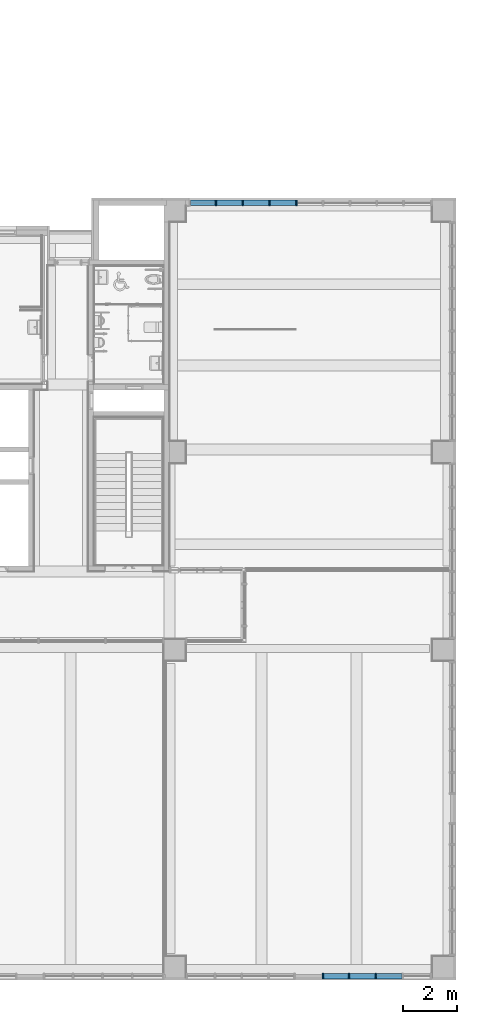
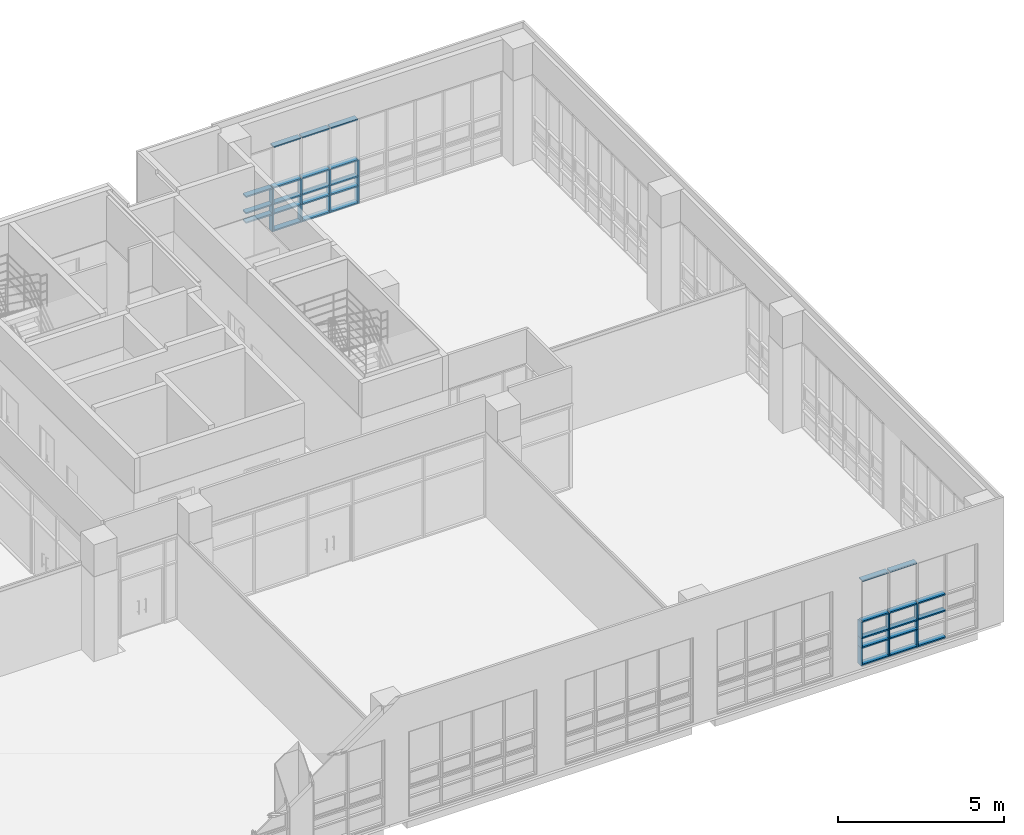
# One storey, part 22 of 74: 52 members, 2 elements without a shape of their own.
"""IFC2X3 building model written with IfcOpenShell, lengths in millimetres."""

from ifc_helpers import new_model, entity, si_unit, converted_unit, derived_unit, direction, frame, origin, origin_2d_with_axis, place, context, subcontext, project, spatial, rectangle, extrude, source, transform, mapped, material, type_object, type_shapes, element, aggregate, save


model = new_model("IFC2X3")

# Units and contexts
model_context = context("Model", 3, precision=0.01, world=origin(), true_north=direction((6.123031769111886e-17, 1.0)))
body_context = subcontext(model_context, "Body", "Model", "MODEL_VIEW")
ifc_project = project(units=[si_unit("LENGTHUNIT", "METRE", prefix="MILLI"), si_unit("AREAUNIT", "SQUARE_METRE"), si_unit("VOLUMEUNIT", "CUBIC_METRE"), converted_unit("PLANEANGLEUNIT", "DEGREE", entity("IfcRatioMeasure", 0.017453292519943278), si_unit("PLANEANGLEUNIT", "RADIAN"), dimensions=[0, 0, 0, 0, 0, 0, 0]), si_unit("MASSUNIT", "GRAM", prefix="KILO"), derived_unit("MASSDENSITYUNIT", [(si_unit("MASSUNIT", "GRAM", prefix="KILO"), 1), (si_unit("LENGTHUNIT", "METRE"), -3)]), derived_unit("MOMENTOFINERTIAUNIT", [(si_unit("LENGTHUNIT", "METRE"), 4)]), si_unit("TIMEUNIT", "SECOND"), si_unit("FREQUENCYUNIT", "HERTZ"), si_unit("THERMODYNAMICTEMPERATUREUNIT", "DEGREE_CELSIUS"), derived_unit("THERMALTRANSMITTANCEUNIT", [(si_unit("MASSUNIT", "GRAM", prefix="KILO"), 1), (si_unit("THERMODYNAMICTEMPERATUREUNIT", "KELVIN"), -1), (si_unit("TIMEUNIT", "SECOND"), -3)]), derived_unit("VOLUMETRICFLOWRATEUNIT", [(si_unit("LENGTHUNIT", "METRE"), 3), (si_unit("TIMEUNIT", "SECOND"), -1)]), derived_unit("MASSFLOWRATEUNIT", [(si_unit("MASSUNIT", "GRAM", prefix="KILO"), 1), (si_unit("TIMEUNIT", "SECOND"), -1)]), derived_unit("ROTATIONALFREQUENCYUNIT", [(si_unit("TIMEUNIT", "SECOND"), -1)]), si_unit("ELECTRICCURRENTUNIT", "AMPERE"), si_unit("ELECTRICVOLTAGEUNIT", "VOLT"), si_unit("POWERUNIT", "WATT"), si_unit("FORCEUNIT", "NEWTON", prefix="KILO"), si_unit("ILLUMINANCEUNIT", "LUX"), si_unit("LUMINOUSFLUXUNIT", "LUMEN"), si_unit("LUMINOUSINTENSITYUNIT", "CANDELA"), derived_unit("USERDEFINED", [(si_unit("MASSUNIT", "GRAM", prefix="KILO"), -1), (si_unit("LENGTHUNIT", "METRE"), -2), (si_unit("TIMEUNIT", "SECOND"), 3), (si_unit("LUMINOUSFLUXUNIT", "LUMEN"), 1)]), derived_unit("SOUNDPOWERUNIT", [(si_unit("MASSUNIT", "GRAM", prefix="KILO"), 1), (si_unit("LENGTHUNIT", "METRE"), 2), (si_unit("TIMEUNIT", "SECOND"), -3)]), derived_unit("SOUNDPRESSUREUNIT", [(si_unit("MASSUNIT", "GRAM", prefix="KILO"), 1), (si_unit("LENGTHUNIT", "METRE"), -1), (si_unit("TIMEUNIT", "SECOND"), -2)]), derived_unit("LINEARVELOCITYUNIT", [(si_unit("LENGTHUNIT", "METRE"), 1), (si_unit("TIMEUNIT", "SECOND"), -1)]), si_unit("PRESSUREUNIT", "PASCAL"), derived_unit("USERDEFINED", [(si_unit("LENGTHUNIT", "METRE"), -2), (si_unit("MASSUNIT", "GRAM", prefix="KILO"), 1), (si_unit("TIMEUNIT", "SECOND"), -2)]), derived_unit("LINEARFORCEUNIT", [(si_unit("MASSUNIT", "GRAM", prefix="KILO"), 1), (si_unit("LENGTHUNIT", "METRE"), 1), (si_unit("TIMEUNIT", "SECOND"), -2), (si_unit("LENGTHUNIT", "METRE"), -1)]), derived_unit("PLANARFORCEUNIT", [(si_unit("MASSUNIT", "GRAM", prefix="KILO"), 1), (si_unit("LENGTHUNIT", "METRE"), 1), (si_unit("TIMEUNIT", "SECOND"), -2), (si_unit("LENGTHUNIT", "METRE"), -2)])], contexts=[model_context])

# Site, building, storey
site_placement = place(None, frame((-14167.972527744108, -657.2125860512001, 0.0)))
site = spatial("IfcSite", under=ifc_project, at=site_placement, Name="Default", CompositionType="ELEMENT")
building_placement = place(site_placement, origin())
building = spatial("IfcBuilding", under=site, at=building_placement, Name="Sample Building", CompositionType="ELEMENT")
storey_placement = place(building_placement, frame((0.0, 0.0, 4800.0)))
storey = spatial("IfcBuildingStorey", under=building, at=storey_placement, Name="지상 2층", CompositionType="ELEMENT", Elevation=4800.000000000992)

# Curtain wall, members
curtain_wall_type = type_object("IfcCurtainWallType", Name="커튼월:CW112-스테인리스 스틸 커튼월", PredefinedType="NOTDEFINED")
curtain_wall_1_placement = place(storey_placement, frame((0.0, 0.0, -4800.0)))
curtain_wall_1 = element("IfcCurtainWall", 1, at=curtain_wall_1_placement, inside=storey, type_object=curtain_wall_type, Name="커튼월:CW112-스테인리스 스틸 커튼월", ObjectType="커튼월:CW112-스테인리스 스틸 커튼월")
ifc_material = material(Name="<Unnamed>")
member_type_1 = type_object("IfcMemberType", Name="직사각형 멀리언:CW200-직사각형 멀리언 50x200mm", PredefinedType="MULLION", material=ifc_material)
shared_shape_1 = source(origin(), body_context, "Body", "SweptSolid", [
    extrude(rectangle(XDim=200.0, YDim=50.0, at=origin_2d_with_axis()), frame((0.0, 0.0, -650.0), z_axis=(0.0, 0.0, 1.0), x_axis=(0.0, -1.0, 0.0)), (0.0, 0.0, 1.0), 650.0000000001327),
])
type_shapes(member_type_1, [shared_shape_1])
member_1_placement = place(curtain_wall_1_placement, frame((47598.32230636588, 619.7122951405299, 4880.0), z_axis=(0.0, 0.0, -1.0), x_axis=(1.0, 0.0, 0.0)))
member_1 = element("IfcMember", 2, at=member_1_placement, type_object=member_type_1, material=ifc_material, Name="직사각형 멀리언:CW200-직사각형 멀리언 50x200mm", ObjectType="직사각형 멀리언:CW200-직사각형 멀리언 50x200mm", context=body_context, shape_type="MappedRepresentation", body=[
    mapped(shared_shape_1, transform((0.0, 0.0, 0.0), scale=1.0)),
])
member_2_placement = place(curtain_wall_1_placement, frame((48585.82230636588, 619.7122951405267, 4880.0), z_axis=(0.0, 0.0, -1.0), x_axis=(1.0, 0.0, 0.0)))
member_2 = element("IfcMember", 3, at=member_2_placement, type_object=member_type_1, material=ifc_material, Name="직사각형 멀리언:CW200-직사각형 멀리언 50x200mm", ObjectType="직사각형 멀리언:CW200-직사각형 멀리언 50x200mm", context=body_context, shape_type="MappedRepresentation", body=[
    mapped(shared_shape_1, transform((0.0, 0.0, 0.0), scale=1.0)),
])

curtain_wall_2_placement = place(storey_placement, frame((0.0, 0.0, -4800.0)))
curtain_wall_2 = element("IfcCurtainWall", 4, at=curtain_wall_2_placement, inside=storey, type_object=curtain_wall_type, Name="커튼월:CW112-스테인리스 스틸 커튼월", ObjectType="커튼월:CW112-스테인리스 스틸 커튼월")
member_3_placement = place(curtain_wall_2_placement, frame((45653.10221408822, 29157.212295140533, 4880.0), z_axis=(0.0, 0.0, -1.0), x_axis=(-1.0, 0.0, 0.0)))
member_3 = element("IfcMember", 5, at=member_3_placement, type_object=member_type_1, material=ifc_material, Name="직사각형 멀리언:CW200-직사각형 멀리언 50x200mm", ObjectType="직사각형 멀리언:CW200-직사각형 멀리언 50x200mm", context=body_context, shape_type="MappedRepresentation", body=[
    mapped(shared_shape_1, transform((0.0, 0.0, 0.0), scale=1.0)),
])
member_4_placement = place(curtain_wall_2_placement, frame((44664.21332519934, 29157.212295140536, 4880.0), z_axis=(0.0, 0.0, -1.0), x_axis=(-1.0, 0.0, 0.0)))
member_4 = element("IfcMember", 6, at=member_4_placement, type_object=member_type_1, material=ifc_material, Name="직사각형 멀리언:CW200-직사각형 멀리언 50x200mm", ObjectType="직사각형 멀리언:CW200-직사각형 멀리언 50x200mm", context=body_context, shape_type="MappedRepresentation", body=[
    mapped(shared_shape_1, transform((0.0, 0.0, 0.0), scale=1.0)),
])
member_5_placement = place(curtain_wall_2_placement, frame((43675.32443631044, 29157.21229514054, 4880.0), z_axis=(0.0, 0.0, -1.0), x_axis=(-1.0, 0.0, 0.0)))
member_5 = element("IfcMember", 7, at=member_5_placement, type_object=member_type_1, material=ifc_material, Name="직사각형 멀리언:CW200-직사각형 멀리언 50x200mm", ObjectType="직사각형 멀리언:CW200-직사각형 멀리언 50x200mm", context=body_context, shape_type="MappedRepresentation", body=[
    mapped(shared_shape_1, transform((0.0, 0.0, 0.0), scale=1.0)),
])
member_6_placement = place(curtain_wall_2_placement, frame((42686.43554742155, 29157.21229514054, 4880.0), z_axis=(0.0, 0.0, -1.0), x_axis=(-1.0, 0.0, 0.0)))
member_6 = element("IfcMember", 8, at=member_6_placement, type_object=member_type_1, material=ifc_material, Name="직사각형 멀리언:CW200-직사각형 멀리언 50x200mm", ObjectType="직사각형 멀리언:CW200-직사각형 멀리언 50x200mm", context=body_context, shape_type="MappedRepresentation", body=[
    mapped(shared_shape_1, transform((0.0, 0.0, 0.0), scale=1.0)),
])

# Member
member_type_2 = type_object("IfcMemberType", Name="직사각형 멀리언:CW200-직사각형 멀리언 50x200mm", PredefinedType="MULLION", material=ifc_material)
shared_shape_2 = source(origin(), body_context, "Body", "SweptSolid", [
    extrude(rectangle(XDim=200.0, YDim=50.0, at=origin_2d_with_axis()), frame((-25.0, 0.0, -600.0), z_axis=(0.0, 0.0, 1.0), x_axis=(0.0, -1.0, 0.0)), (0.0, 0.0, 1.0), 600.0),
])
type_shapes(member_type_2, [shared_shape_2])
member_7_placement = place(curtain_wall_1_placement, frame((46610.82230636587, 619.7122951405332, 6480.0), z_axis=(0.0, 0.0, 1.0), x_axis=(-1.0, 0.0, 0.0)))
member_7 = element("IfcMember", 9, at=member_7_placement, type_object=member_type_2, material=ifc_material, Name="직사각형 멀리언:CW200-직사각형 멀리언 50x200mm", ObjectType="직사각형 멀리언:CW200-직사각형 멀리언 50x200mm", context=body_context, shape_type="MappedRepresentation", body=[
    mapped(shared_shape_2, transform((0.0, 0.0, 0.0), scale=1.0)),
])

member_type_3 = type_object("IfcMemberType", Name="직사각형 멀리언:CW200-직사각형 멀리언 50x200mm", PredefinedType="MULLION", material=ifc_material)
shared_shape_3 = source(origin(), body_context, "Body", "SweptSolid", [
    extrude(rectangle(XDim=200.0, YDim=50.0, at=origin_2d_with_axis()), frame((-25.0, 0.0, -350.0), z_axis=(0.0, 0.0, 1.0), x_axis=(0.0, -1.0, 0.0)), (0.0, 0.0, 1.0), 349.9999999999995),
])
type_shapes(member_type_3, [shared_shape_3])
member_8_placement = place(curtain_wall_1_placement, frame((46610.82230636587, 619.7122951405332, 5880.0), z_axis=(0.0, 0.0, 1.0), x_axis=(-1.0, 0.0, 0.0)))
member_8 = element("IfcMember", 10, at=member_8_placement, type_object=member_type_3, material=ifc_material, Name="직사각형 멀리언:CW200-직사각형 멀리언 50x200mm", ObjectType="직사각형 멀리언:CW200-직사각형 멀리언 50x200mm", context=body_context, shape_type="MappedRepresentation", body=[
    mapped(shared_shape_3, transform((0.0, 0.0, 0.0), scale=1.0)),
])

member_type_4 = type_object("IfcMemberType", Name="직사각형 멀리언:CW200-직사각형 멀리언 50x200mm", PredefinedType="MULLION", material=ifc_material)
shared_shape_4 = source(origin(), body_context, "Body", "SweptSolid", [
    extrude(rectangle(XDim=200.0, YDim=50.0, at=origin_2d_with_axis()), frame((0.0, 0.0, -600.0), z_axis=(0.0, 0.0, 1.0), x_axis=(0.0, -1.0, 0.0)), (0.0, 0.0, 1.0), 600.0),
])
type_shapes(member_type_4, [shared_shape_4])
member_9_placement = place(curtain_wall_1_placement, frame((47598.32230636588, 619.7122951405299, 5880.0), z_axis=(0.0, 0.0, -1.0), x_axis=(1.0, 0.0, 0.0)))
member_9 = element("IfcMember", 11, at=member_9_placement, type_object=member_type_4, material=ifc_material, Name="직사각형 멀리언:CW200-직사각형 멀리언 50x200mm", ObjectType="직사각형 멀리언:CW200-직사각형 멀리언 50x200mm", context=body_context, shape_type="MappedRepresentation", body=[
    mapped(shared_shape_4, transform((0.0, 0.0, 0.0), scale=1.0)),
])

member_10_placement = place(curtain_wall_1_placement, frame((48585.82230636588, 619.7122951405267, 5880.0), z_axis=(0.0, 0.0, -1.0), x_axis=(1.0, 0.0, 0.0)))
member_10 = element("IfcMember", 12, at=member_10_placement, type_object=member_type_4, material=ifc_material, Name="직사각형 멀리언:CW200-직사각형 멀리언 50x200mm", ObjectType="직사각형 멀리언:CW200-직사각형 멀리언 50x200mm", context=body_context, shape_type="MappedRepresentation", body=[
    mapped(shared_shape_4, transform((0.0, 0.0, 0.0), scale=1.0)),
])

member_11_placement = place(curtain_wall_2_placement, frame((45653.10221408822, 29157.212295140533, 5880.0), z_axis=(0.0, 0.0, -1.0), x_axis=(-1.0, 0.0, 0.0)))
member_11 = element("IfcMember", 13, at=member_11_placement, type_object=member_type_4, material=ifc_material, Name="직사각형 멀리언:CW200-직사각형 멀리언 50x200mm", ObjectType="직사각형 멀리언:CW200-직사각형 멀리언 50x200mm", context=body_context, shape_type="MappedRepresentation", body=[
    mapped(shared_shape_4, transform((0.0, 0.0, 0.0), scale=1.0)),
])

member_12_placement = place(curtain_wall_2_placement, frame((44664.21332519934, 29157.212295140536, 5880.0), z_axis=(0.0, 0.0, -1.0), x_axis=(-1.0, 0.0, 0.0)))
member_12 = element("IfcMember", 14, at=member_12_placement, type_object=member_type_4, material=ifc_material, Name="직사각형 멀리언:CW200-직사각형 멀리언 50x200mm", ObjectType="직사각형 멀리언:CW200-직사각형 멀리언 50x200mm", context=body_context, shape_type="MappedRepresentation", body=[
    mapped(shared_shape_4, transform((0.0, 0.0, 0.0), scale=1.0)),
])

member_13_placement = place(curtain_wall_2_placement, frame((43675.32443631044, 29157.21229514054, 5880.0), z_axis=(0.0, 0.0, -1.0), x_axis=(-1.0, 0.0, 0.0)))
member_13 = element("IfcMember", 15, at=member_13_placement, type_object=member_type_4, material=ifc_material, Name="직사각형 멀리언:CW200-직사각형 멀리언 50x200mm", ObjectType="직사각형 멀리언:CW200-직사각형 멀리언 50x200mm", context=body_context, shape_type="MappedRepresentation", body=[
    mapped(shared_shape_4, transform((0.0, 0.0, 0.0), scale=1.0)),
])

member_14_placement = place(curtain_wall_2_placement, frame((42686.43554742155, 29157.21229514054, 5880.0), z_axis=(0.0, 0.0, -1.0), x_axis=(-1.0, 0.0, 0.0)))
member_14 = element("IfcMember", 16, at=member_14_placement, type_object=member_type_4, material=ifc_material, Name="직사각형 멀리언:CW200-직사각형 멀리언 50x200mm", ObjectType="직사각형 멀리언:CW200-직사각형 멀리언 50x200mm", context=body_context, shape_type="MappedRepresentation", body=[
    mapped(shared_shape_4, transform((0.0, 0.0, 0.0), scale=1.0)),
])

member_type_5 = type_object("IfcMemberType", Name="직사각형 멀리언:CW200-직사각형 멀리언 50x200mm", PredefinedType="MULLION", material=ifc_material)
shared_shape_5 = source(origin(), body_context, "Body", "SweptSolid", [
    extrude(rectangle(XDim=200.0, YDim=50.0, at=origin_2d_with_axis()), frame((-25.0, 0.0, -650.0), z_axis=(0.0, 0.0, 1.0), x_axis=(0.0, -1.0, 0.0)), (0.0, 0.0, 1.0), 650.0000000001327),
])
type_shapes(member_type_5, [shared_shape_5])
member_15_placement = place(curtain_wall_1_placement, frame((46610.82230636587, 619.7122951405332, 5530.0), z_axis=(0.0, 0.0, 1.0), x_axis=(-1.0, 0.0, 0.0)))
member_15 = element("IfcMember", 17, at=member_15_placement, type_object=member_type_5, material=ifc_material, Name="직사각형 멀리언:CW200-직사각형 멀리언 50x200mm", ObjectType="직사각형 멀리언:CW200-직사각형 멀리언 50x200mm", context=body_context, shape_type="MappedRepresentation", body=[
    mapped(shared_shape_5, transform((0.0, 0.0, 0.0), scale=1.0)),
])

member_type_6 = type_object("IfcMemberType", Name="직사각형 멀리언:CW200-직사각형 멀리언 50x200mm", PredefinedType="MULLION", material=ifc_material)
shared_shape_6 = source(origin(), body_context, "Body", "SweptSolid", [
    extrude(rectangle(XDim=200.0, YDim=50.0, at=origin_2d_with_axis()), frame((0.0, 0.0, -350.0), z_axis=(0.0, 0.0, 1.0), x_axis=(0.0, -1.0, 0.0)), (0.0, 0.0, 1.0), 349.9999999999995),
])
type_shapes(member_type_6, [shared_shape_6])
member_16_placement = place(curtain_wall_1_placement, frame((47598.32230636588, 619.7122951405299, 5530.0), z_axis=(0.0, 0.0, -1.0), x_axis=(1.0, 0.0, 0.0)))
member_16 = element("IfcMember", 18, at=member_16_placement, type_object=member_type_6, material=ifc_material, Name="직사각형 멀리언:CW200-직사각형 멀리언 50x200mm", ObjectType="직사각형 멀리언:CW200-직사각형 멀리언 50x200mm", context=body_context, shape_type="MappedRepresentation", body=[
    mapped(shared_shape_6, transform((0.0, 0.0, 0.0), scale=1.0)),
])

member_17_placement = place(curtain_wall_1_placement, frame((48585.82230636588, 619.7122951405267, 5530.0), z_axis=(0.0, 0.0, -1.0), x_axis=(1.0, 0.0, 0.0)))
member_17 = element("IfcMember", 19, at=member_17_placement, type_object=member_type_6, material=ifc_material, Name="직사각형 멀리언:CW200-직사각형 멀리언 50x200mm", ObjectType="직사각형 멀리언:CW200-직사각형 멀리언 50x200mm", context=body_context, shape_type="MappedRepresentation", body=[
    mapped(shared_shape_6, transform((0.0, 0.0, 0.0), scale=1.0)),
])

member_18_placement = place(curtain_wall_2_placement, frame((45653.10221408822, 29157.212295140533, 5530.0), z_axis=(0.0, 0.0, -1.0), x_axis=(-1.0, 0.0, 0.0)))
member_18 = element("IfcMember", 20, at=member_18_placement, type_object=member_type_6, material=ifc_material, Name="직사각형 멀리언:CW200-직사각형 멀리언 50x200mm", ObjectType="직사각형 멀리언:CW200-직사각형 멀리언 50x200mm", context=body_context, shape_type="MappedRepresentation", body=[
    mapped(shared_shape_6, transform((0.0, 0.0, 0.0), scale=1.0)),
])

member_19_placement = place(curtain_wall_2_placement, frame((44664.21332519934, 29157.212295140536, 5530.0), z_axis=(0.0, 0.0, -1.0), x_axis=(-1.0, 0.0, 0.0)))
member_19 = element("IfcMember", 21, at=member_19_placement, type_object=member_type_6, material=ifc_material, Name="직사각형 멀리언:CW200-직사각형 멀리언 50x200mm", ObjectType="직사각형 멀리언:CW200-직사각형 멀리언 50x200mm", context=body_context, shape_type="MappedRepresentation", body=[
    mapped(shared_shape_6, transform((0.0, 0.0, 0.0), scale=1.0)),
])

member_20_placement = place(curtain_wall_2_placement, frame((43675.32443631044, 29157.21229514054, 5530.0), z_axis=(0.0, 0.0, -1.0), x_axis=(-1.0, 0.0, 0.0)))
member_20 = element("IfcMember", 22, at=member_20_placement, type_object=member_type_6, material=ifc_material, Name="직사각형 멀리언:CW200-직사각형 멀리언 50x200mm", ObjectType="직사각형 멀리언:CW200-직사각형 멀리언 50x200mm", context=body_context, shape_type="MappedRepresentation", body=[
    mapped(shared_shape_6, transform((0.0, 0.0, 0.0), scale=1.0)),
])

member_21_placement = place(curtain_wall_2_placement, frame((42686.43554742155, 29157.21229514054, 5530.0), z_axis=(0.0, 0.0, -1.0), x_axis=(-1.0, 0.0, 0.0)))
member_21 = element("IfcMember", 23, at=member_21_placement, type_object=member_type_6, material=ifc_material, Name="직사각형 멀리언:CW200-직사각형 멀리언 50x200mm", ObjectType="직사각형 멀리언:CW200-직사각형 멀리언 50x200mm", context=body_context, shape_type="MappedRepresentation", body=[
    mapped(shared_shape_6, transform((0.0, 0.0, 0.0), scale=1.0)),
])

member_type_7 = type_object("IfcMemberType", Name="직사각형 멀리언:CW200-직사각형 멀리언 50x200mm", PredefinedType="MULLION", material=ifc_material)
shared_shape_7 = source(origin(), body_context, "Body", "SweptSolid", [
    extrude(rectangle(XDim=200.0, YDim=50.0, at=origin_2d_with_axis()), frame((-25.0, 0.0, -912.5000000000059), z_axis=(0.0, 0.0, 1.0), x_axis=(0.0, -1.0, 0.0)), (0.0, 0.0, 1.0), 912.5000000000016),
])
type_shapes(member_type_7, [shared_shape_7])
member_22_placement = place(curtain_wall_1_placement, frame((47573.32230636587, 619.71229514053, 8000.0), z_axis=(1.0, 0.0, 0.0), x_axis=(0.0, 0.0, 1.0)))
member_22 = element("IfcMember", 24, at=member_22_placement, type_object=member_type_7, material=ifc_material, Name="직사각형 멀리언:CW200-직사각형 멀리언 50x200mm", ObjectType="직사각형 멀리언:CW200-직사각형 멀리언 50x200mm", context=body_context, shape_type="MappedRepresentation", body=[
    mapped(shared_shape_7, transform((0.0, 0.0, 0.0), scale=1.0)),
])

member_type_8 = type_object("IfcMemberType", Name="직사각형 멀리언:CW200-직사각형 멀리언 50x200mm", PredefinedType="MULLION", material=ifc_material)
shared_shape_8 = source(origin(), body_context, "Body", "SweptSolid", [
    extrude(rectangle(XDim=200.0, YDim=50.0, at=origin_2d_with_axis()), frame((-25.0, 0.0, -937.4999999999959), z_axis=(0.0, 0.0, 1.0), x_axis=(0.0, -1.0, 0.0)), (0.0, 0.0, 1.0), 937.5000000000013),
])
type_shapes(member_type_8, [shared_shape_8])
member_23_placement = place(curtain_wall_1_placement, frame((47623.32230636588, 619.7122951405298, 4880.0), z_axis=(-1.0, 0.0, 0.0), x_axis=(0.0, 0.0, -1.0)))
member_23 = element("IfcMember", 25, at=member_23_placement, type_object=member_type_8, material=ifc_material, Name="직사각형 멀리언:CW200-직사각형 멀리언 50x200mm", ObjectType="직사각형 멀리언:CW200-직사각형 멀리언 50x200mm", context=body_context, shape_type="MappedRepresentation", body=[
    mapped(shared_shape_8, transform((0.0, 0.0, 0.0), scale=1.0)),
])

member_24_placement = place(curtain_wall_1_placement, frame((48610.82230636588, 619.7122951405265, 4880.0), z_axis=(-1.0, 0.0, 0.0), x_axis=(0.0, 0.0, -1.0)))
member_24 = element("IfcMember", 26, at=member_24_placement, type_object=member_type_8, material=ifc_material, Name="직사각형 멀리언:CW200-직사각형 멀리언 50x200mm", ObjectType="직사각형 멀리언:CW200-직사각형 멀리언 50x200mm", context=body_context, shape_type="MappedRepresentation", body=[
    mapped(shared_shape_8, transform((0.0, 0.0, 0.0), scale=1.0)),
])

member_type_9 = type_object("IfcMemberType", Name="직사각형 멀리언:CW200-직사각형 멀리언 50x200mm", PredefinedType="MULLION", material=ifc_material)
shared_shape_9 = source(origin(), body_context, "Body", "SweptSolid", [
    extrude(rectangle(XDim=200.0, YDim=50.0, at=origin_2d_with_axis()), frame((0.0, 0.0, -937.5000000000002), z_axis=(0.0, 0.0, 1.0), x_axis=(0.0, -1.0, 0.0)), (0.0, 0.0, 1.0), 937.5000000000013),
])
type_shapes(member_type_9, [shared_shape_9])
member_25_placement = place(curtain_wall_1_placement, frame((48560.82230636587, 619.7122951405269, 6480.0), z_axis=(1.0, 0.0, 0.0), x_axis=(0.0, 0.0, 1.0)))
member_25 = element("IfcMember", 27, at=member_25_placement, type_object=member_type_9, material=ifc_material, Name="직사각형 멀리언:CW200-직사각형 멀리언 50x200mm", ObjectType="직사각형 멀리언:CW200-직사각형 멀리언 50x200mm", context=body_context, shape_type="MappedRepresentation", body=[
    mapped(shared_shape_9, transform((0.0, 0.0, 0.0), scale=1.0)),
])

member_26_placement = place(curtain_wall_1_placement, frame((48560.82230636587, 619.7122951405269, 5880.0), z_axis=(1.0, 0.0, 0.0), x_axis=(0.0, 0.0, 1.0)))
member_26 = element("IfcMember", 28, at=member_26_placement, type_object=member_type_9, material=ifc_material, Name="직사각형 멀리언:CW200-직사각형 멀리언 50x200mm", ObjectType="직사각형 멀리언:CW200-직사각형 멀리언 50x200mm", context=body_context, shape_type="MappedRepresentation", body=[
    mapped(shared_shape_9, transform((0.0, 0.0, 0.0), scale=1.0)),
])

member_27_placement = place(curtain_wall_1_placement, frame((49548.32230636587, 619.7122951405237, 5880.0), z_axis=(1.0, 0.0, 0.0), x_axis=(0.0, 0.0, 1.0)))
member_27 = element("IfcMember", 29, at=member_27_placement, type_object=member_type_9, material=ifc_material, Name="직사각형 멀리언:CW200-직사각형 멀리언 50x200mm", ObjectType="직사각형 멀리언:CW200-직사각형 멀리언 50x200mm", context=body_context, shape_type="MappedRepresentation", body=[
    mapped(shared_shape_9, transform((0.0, 0.0, 0.0), scale=1.0)),
])

member_28_placement = place(curtain_wall_1_placement, frame((49548.32230636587, 619.7122951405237, 6480.0), z_axis=(1.0, 0.0, 0.0), x_axis=(0.0, 0.0, 1.0)))
member_28 = element("IfcMember", 30, at=member_28_placement, type_object=member_type_9, material=ifc_material, Name="직사각형 멀리언:CW200-직사각형 멀리언 50x200mm", ObjectType="직사각형 멀리언:CW200-직사각형 멀리언 50x200mm", context=body_context, shape_type="MappedRepresentation", body=[
    mapped(shared_shape_9, transform((0.0, 0.0, 0.0), scale=1.0)),
])

member_29_placement = place(curtain_wall_1_placement, frame((48560.82230636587, 619.7122951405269, 5530.0), z_axis=(1.0, 0.0, 0.0), x_axis=(0.0, 0.0, 1.0)))
member_29 = element("IfcMember", 31, at=member_29_placement, type_object=member_type_9, material=ifc_material, Name="직사각형 멀리언:CW200-직사각형 멀리언 50x200mm", ObjectType="직사각형 멀리언:CW200-직사각형 멀리언 50x200mm", context=body_context, shape_type="MappedRepresentation", body=[
    mapped(shared_shape_9, transform((0.0, 0.0, 0.0), scale=1.0)),
])

member_type_10 = type_object("IfcMemberType", Name="직사각형 멀리언:CW200-직사각형 멀리언 50x200mm", PredefinedType="MULLION", material=ifc_material)
shared_shape_10 = source(origin(), body_context, "Body", "SweptSolid", [
    extrude(rectangle(XDim=200.0, YDim=50.0, at=origin_2d_with_axis()), frame((-25.0, 0.0, -937.4999999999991), z_axis=(0.0, 0.0, 1.0), x_axis=(0.0, -1.0, 0.0)), (0.0, 0.0, 1.0), 937.5000000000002),
])
type_shapes(member_type_10, [shared_shape_10])
member_30_placement = place(curtain_wall_1_placement, frame((48560.82230636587, 619.7122951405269, 8000.0), z_axis=(1.0, 0.0, 0.0), x_axis=(0.0, 0.0, 1.0)))
member_30 = element("IfcMember", 32, at=member_30_placement, type_object=member_type_10, material=ifc_material, Name="직사각형 멀리언:CW200-직사각형 멀리언 50x200mm", ObjectType="직사각형 멀리언:CW200-직사각형 멀리언 50x200mm", context=body_context, shape_type="MappedRepresentation", body=[
    mapped(shared_shape_10, transform((0.0, 0.0, 0.0), scale=1.0)),
])

member_type_11 = type_object("IfcMemberType", Name="직사각형 멀리언:CW200-직사각형 멀리언 50x200mm", PredefinedType="MULLION", material=ifc_material)
shared_shape_11 = source(origin(), body_context, "Body", "SweptSolid", [
    extrude(rectangle(XDim=200.0, YDim=50.0, at=origin_2d_with_axis()), frame((-25.0, 0.0, -912.5000000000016), z_axis=(0.0, 0.0, 1.0), x_axis=(0.0, -1.0, 0.0)), (0.0, 0.0, 1.0), 912.5000000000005),
])
type_shapes(member_type_11, [shared_shape_11])
member_31_placement = place(curtain_wall_1_placement, frame((46660.82230636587, 619.712295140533, 4880.0), z_axis=(-1.0, 0.0, 0.0), x_axis=(0.0, 0.0, -1.0)))
member_31 = element("IfcMember", 33, at=member_31_placement, type_object=member_type_11, material=ifc_material, Name="직사각형 멀리언:CW200-직사각형 멀리언 50x200mm", ObjectType="직사각형 멀리언:CW200-직사각형 멀리언 50x200mm", context=body_context, shape_type="MappedRepresentation", body=[
    mapped(shared_shape_11, transform((0.0, 0.0, 0.0), scale=1.0)),
])

member_type_12 = type_object("IfcMemberType", Name="직사각형 멀리언:CW200-직사각형 멀리언 50x200mm", PredefinedType="MULLION", material=ifc_material)
shared_shape_12 = source(origin(), body_context, "Body", "SweptSolid", [
    extrude(rectangle(XDim=200.0, YDim=50.0, at=origin_2d_with_axis()), frame((0.0, 0.0, -912.4999999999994), z_axis=(0.0, 0.0, 1.0), x_axis=(0.0, -1.0, 0.0)), (0.0, 0.0, 1.0), 912.5000000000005),
])
type_shapes(member_type_12, [shared_shape_12])
member_32_placement = place(curtain_wall_1_placement, frame((47573.32230636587, 619.71229514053, 6480.0), z_axis=(1.0, 0.0, 0.0), x_axis=(0.0, 0.0, 1.0)))
member_32 = element("IfcMember", 34, at=member_32_placement, type_object=member_type_12, material=ifc_material, Name="직사각형 멀리언:CW200-직사각형 멀리언 50x200mm", ObjectType="직사각형 멀리언:CW200-직사각형 멀리언 50x200mm", context=body_context, shape_type="MappedRepresentation", body=[
    mapped(shared_shape_12, transform((0.0, 0.0, 0.0), scale=1.0)),
])

member_33_placement = place(curtain_wall_1_placement, frame((47573.32230636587, 619.71229514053, 5880.0), z_axis=(1.0, 0.0, 0.0), x_axis=(0.0, 0.0, 1.0)))
member_33 = element("IfcMember", 35, at=member_33_placement, type_object=member_type_12, material=ifc_material, Name="직사각형 멀리언:CW200-직사각형 멀리언 50x200mm", ObjectType="직사각형 멀리언:CW200-직사각형 멀리언 50x200mm", context=body_context, shape_type="MappedRepresentation", body=[
    mapped(shared_shape_12, transform((0.0, 0.0, 0.0), scale=1.0)),
])

member_34_placement = place(curtain_wall_1_placement, frame((47573.32230636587, 619.71229514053, 5530.0), z_axis=(1.0, 0.0, 0.0), x_axis=(0.0, 0.0, 1.0)))
member_34 = element("IfcMember", 36, at=member_34_placement, type_object=member_type_12, material=ifc_material, Name="직사각형 멀리언:CW200-직사각형 멀리언 50x200mm", ObjectType="직사각형 멀리언:CW200-직사각형 멀리언 50x200mm", context=body_context, shape_type="MappedRepresentation", body=[
    mapped(shared_shape_12, transform((0.0, 0.0, 0.0), scale=1.0)),
])

aggregate(curtain_wall_1, [member_31, member_7, member_32, member_22, member_23, member_25, member_1, member_8, member_33, member_26, member_9, member_30, member_24, member_27, member_28, member_2, member_10, member_15, member_34, member_29, member_16, member_17])

member_type_13 = type_object("IfcMemberType", Name="직사각형 멀리언:CW200-직사각형 멀리언 50x200mm", PredefinedType="MULLION", material=ifc_material)
shared_shape_13 = source(origin(), body_context, "Body", "SweptSolid", [
    extrude(rectangle(XDim=200.0, YDim=50.0, at=origin_2d_with_axis()), frame((-25.0, 0.0, -938.8888888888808), z_axis=(0.0, 0.0, 1.0), x_axis=(0.0, -1.0, 0.0)), (0.0, 0.0, 1.0), 938.888888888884),
])
type_shapes(member_type_13, [shared_shape_13])
member_35_placement = place(curtain_wall_2_placement, frame((45628.10221408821, 29157.212295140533, 4880.0), z_axis=(1.0, 0.0, 0.0), x_axis=(0.0, 0.0, -1.0)))
member_35 = element("IfcMember", 37, at=member_35_placement, type_object=member_type_13, material=ifc_material, Name="직사각형 멀리언:CW200-직사각형 멀리언 50x200mm", ObjectType="직사각형 멀리언:CW200-직사각형 멀리언 50x200mm", context=body_context, shape_type="MappedRepresentation", body=[
    mapped(shared_shape_13, transform((0.0, 0.0, 0.0), scale=1.0)),
])

member_36_placement = place(curtain_wall_2_placement, frame((44639.21332519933, 29157.212295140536, 4880.0), z_axis=(1.0, 0.0, 0.0), x_axis=(0.0, 0.0, -1.0)))
member_36 = element("IfcMember", 38, at=member_36_placement, type_object=member_type_13, material=ifc_material, Name="직사각형 멀리언:CW200-직사각형 멀리언 50x200mm", ObjectType="직사각형 멀리언:CW200-직사각형 멀리언 50x200mm", context=body_context, shape_type="MappedRepresentation", body=[
    mapped(shared_shape_13, transform((0.0, 0.0, 0.0), scale=1.0)),
])

member_37_placement = place(curtain_wall_2_placement, frame((43650.32443631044, 29157.21229514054, 4880.0), z_axis=(1.0, 0.0, 0.0), x_axis=(0.0, 0.0, -1.0)))
member_37 = element("IfcMember", 39, at=member_37_placement, type_object=member_type_13, material=ifc_material, Name="직사각형 멀리언:CW200-직사각형 멀리언 50x200mm", ObjectType="직사각형 멀리언:CW200-직사각형 멀리언 50x200mm", context=body_context, shape_type="MappedRepresentation", body=[
    mapped(shared_shape_13, transform((0.0, 0.0, 0.0), scale=1.0)),
])

member_type_14 = type_object("IfcMemberType", Name="직사각형 멀리언:CW200-직사각형 멀리언 50x200mm", PredefinedType="MULLION", material=ifc_material)
shared_shape_14 = source(origin(), body_context, "Body", "SweptSolid", [
    extrude(rectangle(XDim=200.0, YDim=50.0, at=origin_2d_with_axis()), frame((0.0, 0.0, -938.8888888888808), z_axis=(0.0, 0.0, 1.0), x_axis=(0.0, -1.0, 0.0)), (0.0, 0.0, 1.0), 938.888888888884),
])
type_shapes(member_type_14, [shared_shape_14])
member_38_placement = place(curtain_wall_2_placement, frame((44689.21332519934, 29157.212295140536, 6480.0), z_axis=(-1.0, 0.0, 0.0), x_axis=(0.0, 0.0, 1.0)))
member_38 = element("IfcMember", 40, at=member_38_placement, type_object=member_type_14, material=ifc_material, Name="직사각형 멀리언:CW200-직사각형 멀리언 50x200mm", ObjectType="직사각형 멀리언:CW200-직사각형 멀리언 50x200mm", context=body_context, shape_type="MappedRepresentation", body=[
    mapped(shared_shape_14, transform((0.0, 0.0, 0.0), scale=1.0)),
])

member_39_placement = place(curtain_wall_2_placement, frame((43700.324436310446, 29157.21229514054, 6480.0), z_axis=(-1.0, 0.0, 0.0), x_axis=(0.0, 0.0, 1.0)))
member_39 = element("IfcMember", 41, at=member_39_placement, type_object=member_type_14, material=ifc_material, Name="직사각형 멀리언:CW200-직사각형 멀리언 50x200mm", ObjectType="직사각형 멀리언:CW200-직사각형 멀리언 50x200mm", context=body_context, shape_type="MappedRepresentation", body=[
    mapped(shared_shape_14, transform((0.0, 0.0, 0.0), scale=1.0)),
])

member_40_placement = place(curtain_wall_2_placement, frame((42711.435547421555, 29157.21229514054, 6480.0), z_axis=(-1.0, 0.0, 0.0), x_axis=(0.0, 0.0, 1.0)))
member_40 = element("IfcMember", 42, at=member_40_placement, type_object=member_type_14, material=ifc_material, Name="직사각형 멀리언:CW200-직사각형 멀리언 50x200mm", ObjectType="직사각형 멀리언:CW200-직사각형 멀리언 50x200mm", context=body_context, shape_type="MappedRepresentation", body=[
    mapped(shared_shape_14, transform((0.0, 0.0, 0.0), scale=1.0)),
])

member_41_placement = place(curtain_wall_2_placement, frame((44689.21332519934, 29157.212295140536, 5880.0), z_axis=(-1.0, 0.0, 0.0), x_axis=(0.0, 0.0, 1.0)))
member_41 = element("IfcMember", 43, at=member_41_placement, type_object=member_type_14, material=ifc_material, Name="직사각형 멀리언:CW200-직사각형 멀리언 50x200mm", ObjectType="직사각형 멀리언:CW200-직사각형 멀리언 50x200mm", context=body_context, shape_type="MappedRepresentation", body=[
    mapped(shared_shape_14, transform((0.0, 0.0, 0.0), scale=1.0)),
])

member_42_placement = place(curtain_wall_2_placement, frame((43700.324436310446, 29157.21229514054, 5880.0), z_axis=(-1.0, 0.0, 0.0), x_axis=(0.0, 0.0, 1.0)))
member_42 = element("IfcMember", 44, at=member_42_placement, type_object=member_type_14, material=ifc_material, Name="직사각형 멀리언:CW200-직사각형 멀리언 50x200mm", ObjectType="직사각형 멀리언:CW200-직사각형 멀리언 50x200mm", context=body_context, shape_type="MappedRepresentation", body=[
    mapped(shared_shape_14, transform((0.0, 0.0, 0.0), scale=1.0)),
])

member_43_placement = place(curtain_wall_2_placement, frame((42711.435547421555, 29157.21229514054, 5880.0), z_axis=(-1.0, 0.0, 0.0), x_axis=(0.0, 0.0, 1.0)))
member_43 = element("IfcMember", 45, at=member_43_placement, type_object=member_type_14, material=ifc_material, Name="직사각형 멀리언:CW200-직사각형 멀리언 50x200mm", ObjectType="직사각형 멀리언:CW200-직사각형 멀리언 50x200mm", context=body_context, shape_type="MappedRepresentation", body=[
    mapped(shared_shape_14, transform((0.0, 0.0, 0.0), scale=1.0)),
])

member_44_placement = place(curtain_wall_2_placement, frame((44689.21332519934, 29157.212295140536, 5530.0), z_axis=(-1.0, 0.0, 0.0), x_axis=(0.0, 0.0, 1.0)))
member_44 = element("IfcMember", 46, at=member_44_placement, type_object=member_type_14, material=ifc_material, Name="직사각형 멀리언:CW200-직사각형 멀리언 50x200mm", ObjectType="직사각형 멀리언:CW200-직사각형 멀리언 50x200mm", context=body_context, shape_type="MappedRepresentation", body=[
    mapped(shared_shape_14, transform((0.0, 0.0, 0.0), scale=1.0)),
])

member_45_placement = place(curtain_wall_2_placement, frame((43700.324436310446, 29157.21229514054, 5530.0), z_axis=(-1.0, 0.0, 0.0), x_axis=(0.0, 0.0, 1.0)))
member_45 = element("IfcMember", 47, at=member_45_placement, type_object=member_type_14, material=ifc_material, Name="직사각형 멀리언:CW200-직사각형 멀리언 50x200mm", ObjectType="직사각형 멀리언:CW200-직사각형 멀리언 50x200mm", context=body_context, shape_type="MappedRepresentation", body=[
    mapped(shared_shape_14, transform((0.0, 0.0, 0.0), scale=1.0)),
])

member_46_placement = place(curtain_wall_2_placement, frame((42711.435547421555, 29157.21229514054, 5530.0), z_axis=(-1.0, 0.0, 0.0), x_axis=(0.0, 0.0, 1.0)))
member_46 = element("IfcMember", 48, at=member_46_placement, type_object=member_type_14, material=ifc_material, Name="직사각형 멀리언:CW200-직사각형 멀리언 50x200mm", ObjectType="직사각형 멀리언:CW200-직사각형 멀리언 50x200mm", context=body_context, shape_type="MappedRepresentation", body=[
    mapped(shared_shape_14, transform((0.0, 0.0, 0.0), scale=1.0)),
])

member_type_15 = type_object("IfcMemberType", Name="직사각형 멀리언:CW200-직사각형 멀리언 50x200mm", PredefinedType="MULLION", material=ifc_material)
shared_shape_15 = source(origin(), body_context, "Body", "SweptSolid", [
    extrude(rectangle(XDim=200.0, YDim=50.0, at=origin_2d_with_axis()), frame((-25.0, 0.0, -938.8888888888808), z_axis=(0.0, 0.0, 1.0), x_axis=(0.0, -1.0, 0.0)), (0.0, 0.0, 1.0), 938.888888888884),
])
type_shapes(member_type_15, [shared_shape_15])
member_47_placement = place(curtain_wall_2_placement, frame((44689.21332519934, 29157.212295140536, 8000.0), z_axis=(-1.0, 0.0, 0.0), x_axis=(0.0, 0.0, 1.0)))
member_47 = element("IfcMember", 49, at=member_47_placement, type_object=member_type_15, material=ifc_material, Name="직사각형 멀리언:CW200-직사각형 멀리언 50x200mm", ObjectType="직사각형 멀리언:CW200-직사각형 멀리언 50x200mm", context=body_context, shape_type="MappedRepresentation", body=[
    mapped(shared_shape_15, transform((0.0, 0.0, 0.0), scale=1.0)),
])

member_48_placement = place(curtain_wall_2_placement, frame((43700.324436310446, 29157.21229514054, 8000.0), z_axis=(-1.0, 0.0, 0.0), x_axis=(0.0, 0.0, 1.0)))
member_48 = element("IfcMember", 50, at=member_48_placement, type_object=member_type_15, material=ifc_material, Name="직사각형 멀리언:CW200-직사각형 멀리언 50x200mm", ObjectType="직사각형 멀리언:CW200-직사각형 멀리언 50x200mm", context=body_context, shape_type="MappedRepresentation", body=[
    mapped(shared_shape_15, transform((0.0, 0.0, 0.0), scale=1.0)),
])

member_49_placement = place(curtain_wall_2_placement, frame((42711.435547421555, 29157.21229514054, 8000.0), z_axis=(-1.0, 0.0, 0.0), x_axis=(0.0, 0.0, 1.0)))
member_49 = element("IfcMember", 51, at=member_49_placement, type_object=member_type_15, material=ifc_material, Name="직사각형 멀리언:CW200-직사각형 멀리언 50x200mm", ObjectType="직사각형 멀리언:CW200-직사각형 멀리언 50x200mm", context=body_context, shape_type="MappedRepresentation", body=[
    mapped(shared_shape_15, transform((0.0, 0.0, 0.0), scale=1.0)),
])

member_type_16 = type_object("IfcMemberType", Name="직사각형 멀리언:CW200-직사각형 멀리언 50x200mm", PredefinedType="MULLION", material=ifc_material)
shared_shape_16 = source(origin(), body_context, "Body", "SweptSolid", [
    extrude(rectangle(XDim=200.0, YDim=50.0, at=origin_2d_with_axis()), frame((0.0, 0.0, -913.8888888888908), z_axis=(0.0, 0.0, 1.0), x_axis=(0.0, -1.0, 0.0)), (0.0, 0.0, 1.0), 913.8888888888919),
])
type_shapes(member_type_16, [shared_shape_16])
member_50_placement = place(curtain_wall_2_placement, frame((41747.546658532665, 29157.212295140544, 6480.0), z_axis=(-1.0, 0.0, 0.0), x_axis=(0.0, 0.0, 1.0)))
member_50 = element("IfcMember", 52, at=member_50_placement, type_object=member_type_16, material=ifc_material, Name="직사각형 멀리언:CW200-직사각형 멀리언 50x200mm", ObjectType="직사각형 멀리언:CW200-직사각형 멀리언 50x200mm", context=body_context, shape_type="MappedRepresentation", body=[
    mapped(shared_shape_16, transform((0.0, 0.0, 0.0), scale=1.0)),
])

member_51_placement = place(curtain_wall_2_placement, frame((41747.546658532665, 29157.212295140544, 5880.0), z_axis=(-1.0, 0.0, 0.0), x_axis=(0.0, 0.0, 1.0)))
member_51 = element("IfcMember", 53, at=member_51_placement, type_object=member_type_16, material=ifc_material, Name="직사각형 멀리언:CW200-직사각형 멀리언 50x200mm", ObjectType="직사각형 멀리언:CW200-직사각형 멀리언 50x200mm", context=body_context, shape_type="MappedRepresentation", body=[
    mapped(shared_shape_16, transform((0.0, 0.0, 0.0), scale=1.0)),
])

member_52_placement = place(curtain_wall_2_placement, frame((41747.546658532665, 29157.212295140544, 5530.0), z_axis=(-1.0, 0.0, 0.0), x_axis=(0.0, 0.0, 1.0)))
member_52 = element("IfcMember", 54, at=member_52_placement, type_object=member_type_16, material=ifc_material, Name="직사각형 멀리언:CW200-직사각형 멀리언 50x200mm", ObjectType="직사각형 멀리언:CW200-직사각형 멀리언 50x200mm", context=body_context, shape_type="MappedRepresentation", body=[
    mapped(shared_shape_16, transform((0.0, 0.0, 0.0), scale=1.0)),
])

aggregate(curtain_wall_2, [member_35, member_38, member_3, member_47, member_36, member_39, member_4, member_48, member_37, member_40, member_5, member_49, member_50, member_6, member_41, member_42, member_43, member_51, member_11, member_12, member_13, member_14, member_44, member_45, member_46, member_52, member_18, member_19, member_20, member_21])

save(model, "model.ifc")
